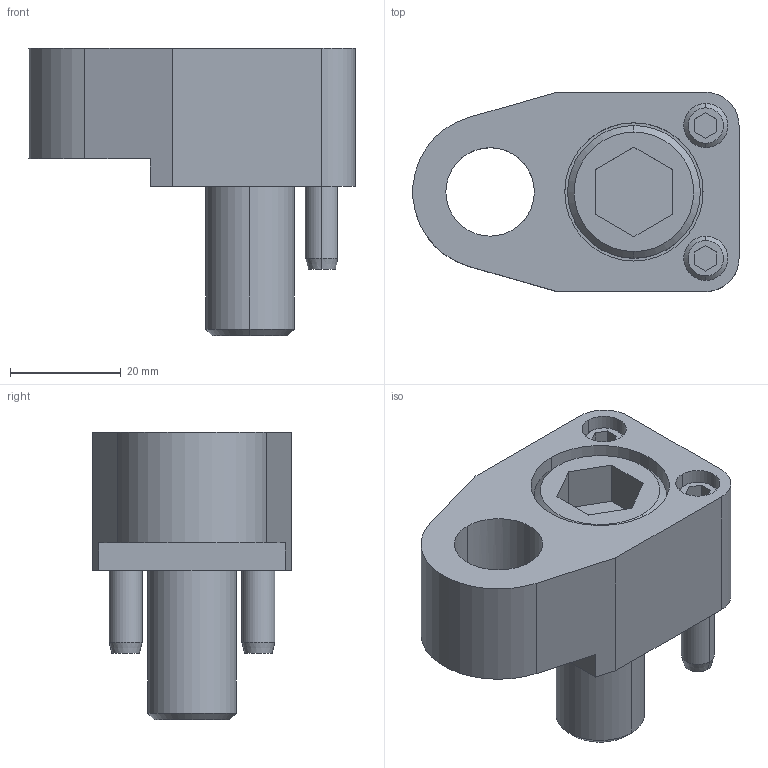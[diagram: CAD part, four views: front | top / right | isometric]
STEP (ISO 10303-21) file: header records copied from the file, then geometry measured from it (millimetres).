
FILE_DESCRIPTION(/* description */ (''),/* implementation_level */ '2;1');
FILE_NAME(/* name */ '3d_tpfrs16_03052_r00.stp',/* time_stamp */ '2011-01-10T14:08:57+09:00',/* author */ ('MISUMI'),/* organization */ (''),/* preprocessor_version */ 'ST-DEVELOPER v11',/* originating_system */ 'UGS - NX 5.0',/* authorisation */ '');
FILE_SCHEMA (('CONFIG_CONTROL_DESIGN'));
Length unit declared in the file: millimetre
Products named in the file (1): 3d_tpfrs16_03052_r00
Bounding box: 58.95 x 36 x 52 mm (x, y, z)
Volume: 42753.7 mm3; surface area: 16930.9 mm2
Topology: 6 solids, 6 shells, 111 faces, 246 edges, 157 vertices
Faces by surface type: plane 50, cylinder 39, cone 22
Entity records: 3208 total; most frequent: CARTESIAN_POINT 568, DIRECTION 566, ORIENTED_EDGE 492, EDGE_CURVE 246, AXIS2_PLACEMENT_3D 213, VERTEX_POINT 157, LINE 140, VECTOR 140
